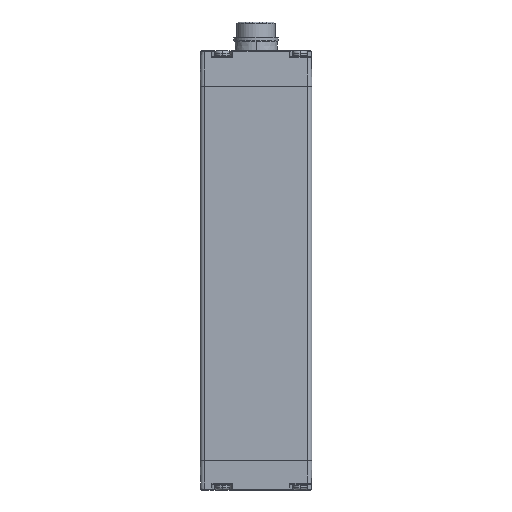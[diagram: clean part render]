
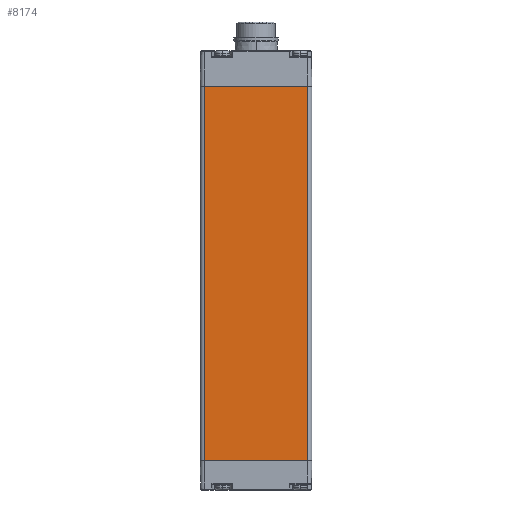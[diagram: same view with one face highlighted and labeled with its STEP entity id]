
A CAD part, left-side view. The second image highlights one B-rep face of the part: STEP entity #8174.
In plain terms, the highlighted planar face has unit normal (-1, 0, 0).
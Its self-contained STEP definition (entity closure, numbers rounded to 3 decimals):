
#4328=DIRECTION('',(0.,-1.,0.));
#4329=VECTOR('',#4328,34.9);
#4330=CARTESIAN_POINT('',(-18.95,21.72,-63.5));
#4331=LINE('',#4330,#4329);
#4943=DIRECTION('',(0.,0.,-1.));
#4944=VECTOR('',#4943,127.);
#4945=CARTESIAN_POINT('',(-18.95,21.72,63.5));
#4946=LINE('',#4945,#4944);
#4947=DIRECTION('',(0.,0.,-1.));
#4948=VECTOR('',#4947,127.);
#4949=CARTESIAN_POINT('',(-18.95,-13.18,63.5));
#4950=LINE('',#4949,#4948);
#5751=DIRECTION('',(0.,-1.,0.));
#5752=VECTOR('',#5751,34.9);
#5753=CARTESIAN_POINT('',(-18.95,21.72,63.5));
#5754=LINE('',#5753,#5752);
#6120=CARTESIAN_POINT('',(-18.95,21.72,-63.5));
#6122=VERTEX_POINT('',#6120);
#6126=CARTESIAN_POINT('',(-18.95,21.72,63.5));
#6127=VERTEX_POINT('',#6126);
#6129=CARTESIAN_POINT('',(-18.95,-13.18,-63.5));
#6131=VERTEX_POINT('',#6129);
#6132=CARTESIAN_POINT('',(-18.95,-13.18,63.5));
#6133=VERTEX_POINT('',#6132);
#8161=CARTESIAN_POINT('',(-18.95,23.22,-63.5));
#8162=DIRECTION('',(-1.,0.,0.));
#8163=DIRECTION('',(0.,-1.,0.));
#8164=AXIS2_PLACEMENT_3D('',#8161,#8162,#8163);
#8165=PLANE('',#8164);
#8167=ORIENTED_EDGE('',*,*,#8166,.F.);
#8169=ORIENTED_EDGE('',*,*,#8168,.T.);
#8170=ORIENTED_EDGE('',*,*,#8146,.T.);
#8171=ORIENTED_EDGE('',*,*,#6921,.F.);
#8172=EDGE_LOOP('',(#8167,#8169,#8170,#8171));
#8173=FACE_OUTER_BOUND('',#8172,.F.);
#6921=EDGE_CURVE('',#6122,#6131,#4331,.T.);
#8146=EDGE_CURVE('',#6133,#6131,#4950,.T.);
#8166=EDGE_CURVE('',#6127,#6122,#4946,.T.);
#8168=EDGE_CURVE('',#6127,#6133,#5754,.T.);
#8174=ADVANCED_FACE('',(#8173),#8165,.T.);
